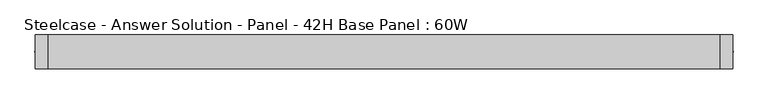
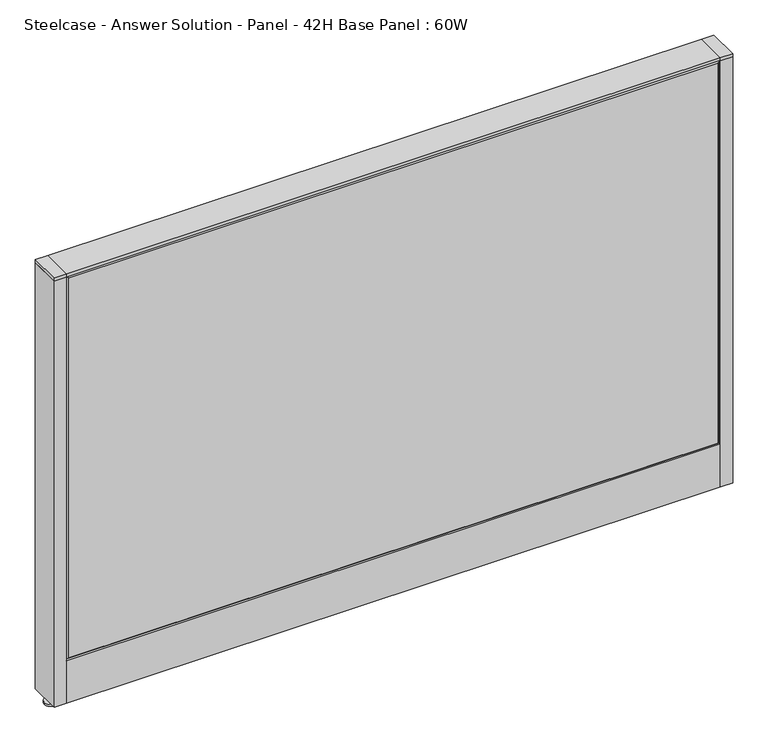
"""IFC4 building model written with IfcOpenShell, lengths in millimetres: furniture geometry, Steelcase - Answer Solution - Panel - 42H Base Panel : 60W."""

import ifcopenshell
import ifcopenshell.guid

model = None  # the IFC model being written
_history = None  # IfcOwnerHistory: only IFC2X3 demands one
_inside = {}  # id of a spatial element -> (the spatial element, [elements in it])
_under = {}  # id of a project, library or spatial element -> (it, [spatial elements below it])
_declared = {}  # id of a project -> (the project, [libraries it declares])
_typed = {}  # id of a type object -> (the type object, [elements of that type])
_made_of = {}  # id of a material, layer set ... -> (it, [elements and type objects made of it])


def new_model(schema):
    """Start an empty IFC model of exactly this schema.

    Asked for "IFC4X3", IfcOpenShell would pick the latest addendum, in which some entities
    have other attributes; the version numbers below select the first issue.
    IFC2X3 requires an IfcOwnerHistory on every rooted entity: one is made here for all.
    """
    global model, _history
    if schema == "IFC4X3":
        model = ifcopenshell.file(schema_version=(4, 3, 0, 0))
    else:
        model = ifcopenshell.file(schema=schema)
    _inside.clear()
    _under.clear()
    _declared.clear()
    _typed.clear()
    _made_of.clear()
    _history = None
    if model.schema == "IFC2X3":
        org = make("IfcOrganization", Name="unknown")
        user = make(
            "IfcPersonAndOrganization",
            ThePerson=make("IfcPerson", FamilyName="unknown"),
            TheOrganization=org,
        )
        app = make(
            "IfcApplication",
            ApplicationDeveloper=org,
            Version="unknown",
            ApplicationFullName="unknown",
            ApplicationIdentifier="unknown",
        )
        _history = make(
            "IfcOwnerHistory",
            OwningUser=user,
            OwningApplication=app,
            ChangeAction="ADDED",
            CreationDate=0,
        )
    return model


def make(cls, **values):
    """One entity of the class cls with the attributes given. An attribute that is None is left unset."""
    return model.create_entity(
        cls, **{name: value for name, value in values.items() if value is not None}
    )


def rooted(cls, **values):
    """An entity with a GlobalId (a new one), such as an element, a storey or a relation."""
    return make(cls, GlobalId=ifcopenshell.guid.new(), OwnerHistory=_history, **values)


def si_unit(unit_type, name, prefix=None):
    """IfcSIUnit, for example si_unit("LENGTHUNIT", "METRE", prefix="MILLI")."""
    return make("IfcSIUnit", UnitType=unit_type, Prefix=prefix, Name=name)


def assignment(units):
    """IfcUnitAssignment: the units of a project."""
    return None if units is None else make("IfcUnitAssignment", Units=units)


def point(xyz):
    """IfcCartesianPoint."""
    return None if xyz is None else make("IfcCartesianPoint", Coordinates=xyz)


def direction(xyz):
    """IfcDirection."""
    return None if xyz is None else make("IfcDirection", DirectionRatios=xyz)


def frame(location, z_axis=None, x_axis=None):
    """IfcAxis2Placement3D, a coordinate frame: its origin and axes. An axis left out is left unset."""
    return make(
        "IfcAxis2Placement3D",
        Location=point(location),
        Axis=direction(z_axis),
        RefDirection=direction(x_axis),
    )


def frame_2d(location, x_axis=None):
    """IfcAxis2Placement2D, a coordinate frame in the plane: its origin and x axis."""
    return make(
        "IfcAxis2Placement2D", Location=point(location), RefDirection=direction(x_axis)
    )


def origin():
    """The frame at (0, 0, 0) with its axes left unset."""
    return frame((0.0, 0.0, 0.0))


def place(relative_to, where):
    """IfcLocalPlacement: puts the frame where relative to a parent placement (None: the world)."""
    return make(
        "IfcLocalPlacement", PlacementRelTo=relative_to, RelativePlacement=where
    )


def context(
    kind, dimensions, precision=None, world=None, true_north=None, identifier=None
):
    """IfcGeometricRepresentationContext, for example the 3D "Model" context."""
    return make(
        "IfcGeometricRepresentationContext",
        ContextIdentifier=identifier,
        ContextType=kind,
        CoordinateSpaceDimension=dimensions,
        Precision=precision,
        WorldCoordinateSystem=world,
        TrueNorth=true_north,
    )


def project(units=None, contexts=None):
    """IfcProject with its units and contexts."""
    return rooted(
        "IfcProject",
        Name="project",
        RepresentationContexts=contexts,
        UnitsInContext=assignment(units),
    )


def spatial(cls, under=None, at=None, **own):
    """A site, building, storey or space (cls), placed at a placement, below another one or the project."""
    s = rooted(cls, ObjectPlacement=at, **own)
    if under is not None:
        _under.setdefault(under.id(), (under, []))[1].append(s)
    return s


def polyline(points):
    """IfcPolyline through the points."""
    return make("IfcPolyline", Points=[point(p) for p in points])


def circle_curve(where, radius):
    """IfcCircle in the frame where."""
    return make("IfcCircle", Position=where, Radius=radius)


def trimmed(basis, trim1, trim2, sense, master):
    """IfcTrimmedCurve: the piece of a basis curve between two trims."""
    return make(
        "IfcTrimmedCurve",
        BasisCurve=basis,
        Trim1=trim1,
        Trim2=trim2,
        SenseAgreement=sense,
        MasterRepresentation=master,
    )


def segment(curve, same_sense, transition):
    """IfcCompositeCurveSegment."""
    return make(
        "IfcCompositeCurveSegment",
        Transition=transition,
        SameSense=same_sense,
        ParentCurve=curve,
    )


def composite_curve(segments, self_intersect=None):
    """IfcCompositeCurve: segments joined end to end."""
    return make("IfcCompositeCurve", Segments=segments, SelfIntersect=self_intersect)


def outline(outer, holes=None, kind="AREA"):
    """IfcArbitraryClosedProfileDef: a profile drawn as a closed curve; with holes, ...WithVoids."""
    if holes is None:
        return make("IfcArbitraryClosedProfileDef", ProfileType=kind, OuterCurve=outer)
    return make(
        "IfcArbitraryProfileDefWithVoids",
        ProfileType=kind,
        OuterCurve=outer,
        InnerCurves=holes,
    )


def extrude(swept, where, along, depth):
    """IfcExtrudedAreaSolid: the profile swept, set in the frame where, extruded along a direction by depth."""
    return make(
        "IfcExtrudedAreaSolid",
        SweptArea=swept,
        Position=where,
        ExtrudedDirection=direction(along),
        Depth=depth,
    )


def faces_of(points, faces, orient=None, outer=None):
    """IfcFace entities. A face is a list of loops; a loop is a list of indices into points, from 0.

    orient and outer hold one flag for each loop. By default every Orientation is true, the
    first loop of a face is its IfcFaceOuterBound and the others are IfcFaceBound.
    """
    made = []
    for i, loops in enumerate(faces):
        bounds = []
        for j, loop in enumerate(loops):
            is_outer = j == 0 if outer is None else outer[i][j]
            bounds.append(
                make(
                    "IfcFaceOuterBound" if is_outer else "IfcFaceBound",
                    Bound=make("IfcPolyLoop", Polygon=[points[k] for k in loop]),
                    Orientation=True if orient is None else orient[i][j],
                )
            )
        made.append(make("IfcFace", Bounds=bounds))
    return made


def faceted_brep(points, faces, orient=None, outer=None, voids=None):
    """IfcFacetedBrep: a solid bounded by flat faces; with voids (closed shells), ...WithVoids."""
    shared = [point(p) for p in points]
    hull = make("IfcClosedShell", CfsFaces=faces_of(shared, faces, orient, outer))
    if voids is None:
        return make("IfcFacetedBrep", Outer=hull)
    return make(
        "IfcFacetedBrepWithVoids",
        Outer=hull,
        Voids=[
            make(cls, CfsFaces=faces_of(shared, fs, o, b)) for cls, fs, o, b in voids
        ],
    )


def shape(context_of_items, identifier, shape_type, items):
    """IfcShapeRepresentation: the items that make up one representation, for example the "Body"."""
    return make(
        "IfcShapeRepresentation",
        ContextOfItems=context_of_items,
        RepresentationIdentifier=identifier,
        RepresentationType=shape_type,
        Items=items,
    )


def source(mapping_origin, context_of_items, identifier, shape_type, items):
    """IfcRepresentationMap: a shape defined once, which mapped items show again and again."""
    return make(
        "IfcRepresentationMap",
        MappingOrigin=mapping_origin,
        MappedRepresentation=shape(context_of_items, identifier, shape_type, items),
    )


def transform(
    local_origin,
    x_axis=None,
    y_axis=None,
    z_axis=None,
    scale=None,
    scale2=None,
    scale3=None,
    uniform=True,
):
    """IfcCartesianTransformationOperator3D, or its non-uniform kind. x_axis, y_axis, z_axis: its Axis1, 2, 3."""
    if uniform:
        return make(
            "IfcCartesianTransformationOperator3D",
            Axis1=direction(x_axis),
            Axis2=direction(y_axis),
            LocalOrigin=point(local_origin),
            Scale=scale,
            Axis3=direction(z_axis),
        )
    return make(
        "IfcCartesianTransformationOperator3DnonUniform",
        Axis1=direction(x_axis),
        Axis2=direction(y_axis),
        LocalOrigin=point(local_origin),
        Scale=scale,
        Axis3=direction(z_axis),
        Scale2=scale2,
        Scale3=scale3,
    )


def mapped(mapping_source, mapping_target):
    """IfcMappedItem: shows the shape of a source again, moved by a transform."""
    return make(
        "IfcMappedItem", MappingSource=mapping_source, MappingTarget=mapping_target
    )


def made_of(thing, what):
    """Note that an element or type object is made of a material, layer set ...; save() writes the relation."""
    if what is not None:
        _made_of.setdefault(what.id(), (what, []))[1].append(thing)
    return thing


def element(
    cls,
    number,
    at=None,
    inside=None,
    cuts=None,
    type_object=None,
    material=None,
    context=None,
    identifier="Body",
    shape_type=None,
    held_by="IfcProductDefinitionShape",
    body=None,
    shapes=None,
    **own,
):
    """One element of the class cls, such as IfcWall. Its Tag is "e" and its number.

    at: its placement. inside: the storey or other place that contains it. cuts: it is an
    opening in that element (IfcRelVoidsElement). A single representation is given by context,
    identifier, shape_type and body (its items); several are given by shapes. held_by: the class
    of the entity that holds the representations. save() writes the other relations.
    """
    e = rooted(cls, Tag="e%d" % number, ObjectPlacement=at, **own)
    if body is not None:
        shapes = [shape(context, identifier, shape_type, body)]
    if shapes is not None:
        e.Representation = make(held_by, Representations=shapes)
    if inside is not None:
        _inside.setdefault(inside.id(), (inside, []))[1].append(e)
    if cuts is not None:
        rooted(
            "IfcRelVoidsElement", RelatingBuildingElement=cuts, RelatedOpeningElement=e
        )
    if type_object is not None:
        _typed.setdefault(type_object.id(), (type_object, []))[1].append(e)
    return made_of(e, material)


def aggregate(whole, parts):
    """IfcRelAggregates: a whole, such as a stair, and the parts it consists of."""
    return rooted("IfcRelAggregates", RelatingObject=whole, RelatedObjects=parts)


def save(model, path):
    """Write the relations noted so far, then the file.

    IfcRelAggregates (storeys below a building ...), IfcRelContainedInSpatialStructure (elements
    in a storey), IfcRelDefinesByType, IfcRelAssociatesMaterial and IfcRelDeclares: one each for
    every whole, place, type object, material and project.
    """
    for whole, parts in _under.values():
        aggregate(whole, parts)
    for where, things in _inside.values():
        rooted(
            "IfcRelContainedInSpatialStructure",
            RelatedElements=things,
            RelatingStructure=where,
        )
    for kind, things in _typed.values():
        rooted("IfcRelDefinesByType", RelatedObjects=things, RelatingType=kind)
    for what, things in _made_of.values():
        rooted("IfcRelAssociatesMaterial", RelatedObjects=things, RelatingMaterial=what)
    for by, libraries in _declared.values():
        rooted("IfcRelDeclares", RelatingContext=by, RelatedDefinitions=libraries)
    model.write(path)


def steelcase_answer_solution_panel_42h_base_panel_60w_e65f7377(model_context):
    return source(origin(), model_context, "Body", "SolidModel", [
        extrude(outline(composite_curve([segment(trimmed(circle_curve(frame_2d((776.224, 0.0039657)), 5.08), [point((781.304, 0.0039657))], [point((771.144, 0.0039657))], False, "CARTESIAN"), True, "CONTINUOUS"), segment(trimmed(circle_curve(frame_2d((776.224, 0.0039657)), 5.08), [point((771.144, 0.0039657))], [point((781.304, 0.0039657))], False, "CARTESIAN"), True, "CONTINUOUS")], self_intersect=False)), frame((0.0, 0.0, 5.0799671), z_axis=(0.0, 0.0, 1.0), x_axis=(1.0, 0.0, 0.0)), (0.0, 0.0, 1.0), 10.414),
        extrude(outline(composite_curve([segment(trimmed(circle_curve(frame_2d((776.224, 0.0039657)), 15.24), [point((791.464, 0.0039657))], [point((760.984, 0.0039657))], False, "CARTESIAN"), True, "CONTINUOUS"), segment(trimmed(circle_curve(frame_2d((776.224, 0.0039657)), 15.24), [point((760.984, 0.0039657))], [point((791.464, 0.0039657))], False, "CARTESIAN"), True, "CONTINUOUS")], self_intersect=False)), frame((0.0, 0.0, -3.29e-05), z_axis=(0.0, 0.0, 1.0), x_axis=(1.0, 0.0, 0.0)), (0.0, 0.0, 1.0), 5.08),
        extrude(outline(polyline([(790.575, 38.1039851), (790.575, -38.0960149), (762.0, -38.0960149), (762.0, 38.1039851), (790.575, 38.1039851)])), frame((0.0, 0.0, 1065.8348), z_axis=(0.0, 0.0, 1.0), x_axis=(1.0, 0.0, 0.0)), (0.0, 0.0, 1.0), 7.3151671),
        extrude(outline(polyline([(790.575, 38.1039851), (790.575, -38.0960149), (762.0, -38.0960149), (762.0, 38.1039851), (790.575, 38.1039851)])), frame((0.0, 0.0, 15.4939671), z_axis=(0.0, 0.0, 1.0), x_axis=(1.0, 0.0, 0.0)), (0.0, 0.0, 1.0), 1050.3408329),
        extrude(outline(composite_curve([segment(trimmed(circle_curve(frame_2d((-776.224, 0.0039657)), 5.08), [point((-781.304, 0.0039657))], [point((-771.144, 0.0039657))], False, "CARTESIAN"), True, "CONTINUOUS"), segment(trimmed(circle_curve(frame_2d((-776.224, 0.0039657)), 5.08), [point((-771.144, 0.0039657))], [point((-781.304, 0.0039657))], False, "CARTESIAN"), True, "CONTINUOUS")], self_intersect=False)), frame((0.0, 0.0, 5.0799671), z_axis=(0.0, 0.0, 1.0), x_axis=(1.0, 0.0, 0.0)), (0.0, 0.0, 1.0), 10.414),
        extrude(outline(composite_curve([segment(trimmed(circle_curve(frame_2d((-776.224, 0.0039657)), 15.24), [point((-791.464, 0.0039657))], [point((-760.984, 0.0039657))], False, "CARTESIAN"), True, "CONTINUOUS"), segment(trimmed(circle_curve(frame_2d((-776.224, 0.0039657)), 15.24), [point((-760.984, 0.0039657))], [point((-791.464, 0.0039657))], False, "CARTESIAN"), True, "CONTINUOUS")], self_intersect=False)), frame((0.0, 0.0, -3.29e-05), z_axis=(0.0, 0.0, 1.0), x_axis=(1.0, 0.0, 0.0)), (0.0, 0.0, 1.0), 5.08),
        extrude(outline(polyline([(-790.575, 38.1039851), (-762.0, 38.1039851), (-762.0, -38.0960149), (-790.575, -38.0960149), (-790.575, 38.1039851)])), frame((0.0, 0.0, 1065.8348), z_axis=(0.0, 0.0, 1.0), x_axis=(1.0, 0.0, 0.0)), (0.0, 0.0, 1.0), 7.3151671),
        extrude(outline(polyline([(-790.575, 38.1039851), (-762.0, 38.1039851), (-762.0, -38.0960149), (-790.575, -38.0960149), (-790.575, 38.1039851)])), frame((0.0, 0.0, 15.4939671), z_axis=(0.0, 0.0, 1.0), x_axis=(1.0, 0.0, 0.0)), (0.0, 0.0, 1.0), 1050.3408329),
        faceted_brep([(-757.174, 38.1635011, 1061.974), (757.174, 38.1635011, 1061.974), (757.174, 38.1635011, 125.476), (-757.174, 38.1635011, 125.476), (-762.0, 33.3375011, 1066.8), (-762.0, 33.3375011, 120.65), (762.0, 33.3375011, 120.65), (762.0, 33.3375011, 1066.8)], [[[0, 1, 2, 3]], [[4, 5, 6, 7]], [[4, 7, 1, 0]], [[7, 6, 2, 1]], [[6, 5, 3, 2]], [[5, 4, 0, 3]]]),
        faceted_brep([(757.174, -38.1635011, 1061.974), (-757.174, -38.1635011, 1061.974), (-757.174, -38.1635011, 125.476), (757.174, -38.1635011, 125.476), (762.0, -33.3375011, 1066.8), (762.0, -33.3375011, 120.65), (-762.0, -33.3375011, 120.65), (-762.0, -33.3375011, 1066.8)], [[[0, 1, 2, 3]], [[4, 5, 6, 7]], [[4, 7, 1, 0]], [[7, 6, 2, 1]], [[6, 5, 3, 2]], [[5, 4, 0, 3]]]),
        extrude(outline(polyline([(762.0, 38.1000194), (762.0, -38.1000194), (-762.0, -38.1000194), (-762.0, 38.1000194), (762.0, 38.1000194)])), frame((0.0, 0.0, 1066.8), z_axis=(0.0, 0.0, 1.0), x_axis=(1.0, 0.0, 0.0)), (0.0, 0.0, 1.0), 6.35),
        extrude(outline(polyline([(25.4000011, 119.8575157), (25.4000011, 120.65), (38.1000194, 120.65), (38.1000194, 15.494), (37.3075215, 15.494), (37.3075215, 119.8575157), (25.4000011, 119.8575157)])), frame((-762.0, 0.0, 0.0), z_axis=(1.0, 0.0, 0.0), x_axis=(0.0, 1.0, 0.0)), (0.0, 0.0, 1.0), 1524.0),
        extrude(outline(polyline([(-25.4000011, 119.8575157), (-37.3075215, 119.8575157), (-37.3075215, 15.494), (-38.1000194, 15.494), (-38.1000194, 120.65), (-25.4000011, 120.65), (-25.4000011, 119.8575157)])), frame((-762.0, 0.0, 0.0), z_axis=(1.0, 0.0, 0.0), x_axis=(0.0, 1.0, 0.0)), (0.0, 0.0, 1.0), 1524.0),
    ])


if __name__ == "__main__":
    model = new_model("IFC4")
    model_context = context("Model", 3, world=origin())
    ifc_project = project(units=[si_unit("LENGTHUNIT", "METRE", prefix="MILLI")], contexts=[model_context])
    site = spatial("IfcSite", under=ifc_project)
    building = spatial("IfcBuilding", under=site)
    placement = place(None, origin())
    steelcase_answer_solution_panel_42h_base_panel_60w_shape = steelcase_answer_solution_panel_42h_base_panel_60w_e65f7377(model_context)
    element("IfcFurniture", 1, ObjectType="Steelcase - Answer Solution - Panel - 42H Base Panel : 60W", at=placement, inside=building, context=model_context, shape_type="MappedRepresentation", body=[
        mapped(steelcase_answer_solution_panel_42h_base_panel_60w_shape, transform((0.0, 0.0, 0.0), x_axis=(1.0, 0.0, 0.0), y_axis=(0.0, 1.0, 0.0), z_axis=(0.0, 0.0, 1.0))),
    ])
    save(model, "model.ifc")
